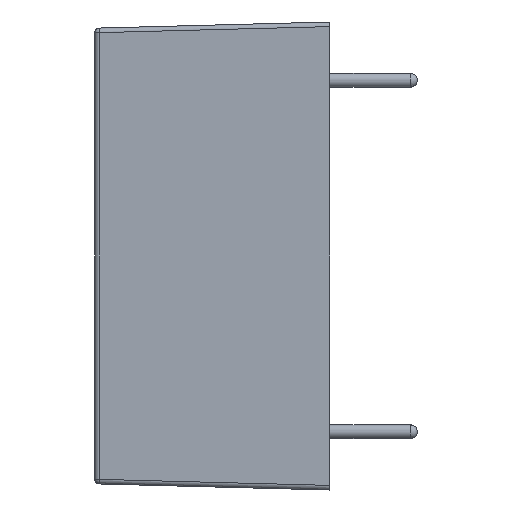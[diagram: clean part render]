
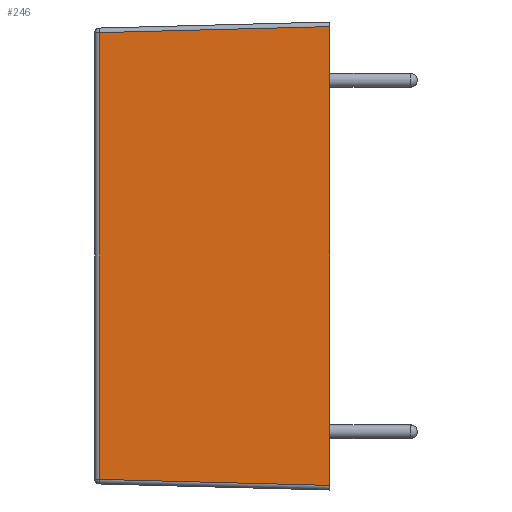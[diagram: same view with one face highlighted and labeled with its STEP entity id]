
A CAD part, left-side view. The second image highlights one B-rep face of the part: STEP entity #246.
In plain terms, the highlighted planar face has unit normal (-1, 0.026, 0).
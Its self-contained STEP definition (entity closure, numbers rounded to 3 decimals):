
#19 = DIRECTION ( 'NONE',  ( 0., 0., 1. ) ) ;
#54 = EDGE_CURVE ( 'NONE', #891, #755, #245, .T. ) ;
#109 = DIRECTION ( 'NONE',  ( 0., 0., -1. ) ) ;
#191 = CARTESIAN_POINT ( 'NONE',  ( -15.886, 0.526, 9.936 ) ) ;
#245 = LINE ( 'NONE', #1083, #606 ) ;
#246 = ADVANCED_FACE ( 'NONE', ( #919 ), #655, .T. ) ;
#267 = EDGE_LOOP ( 'NONE', ( #1176, #418, #1210, #1104 ) ) ;
#385 = EDGE_CURVE ( 'NONE', #738, #891, #577, .T. ) ;
#397 = AXIS2_PLACEMENT_3D ( 'NONE', #399, #874, #495 ) ;
#399 = CARTESIAN_POINT ( 'NONE',  ( -15.9, 0., -10.15 ) ) ;
#418 = ORIENTED_EDGE ( 'NONE', *, *, #54, .T. ) ;
#436 = VECTOR ( 'NONE', #19, 1000. ) ;
#495 = DIRECTION ( 'NONE',  ( -0.026, -1., 0. ) ) ;
#565 = CARTESIAN_POINT ( 'NONE',  ( -15.638, 10.005, -9.883 ) ) ;
#575 = EDGE_CURVE ( 'NONE', #755, #797, #691, .T. ) ;
#577 = LINE ( 'NONE', #565, #798 ) ;
#606 = VECTOR ( 'NONE', #817, 1000. ) ;
#631 = EDGE_CURVE ( 'NONE', #797, #738, #1149, .T. ) ;
#642 = CARTESIAN_POINT ( 'NONE',  ( -15.9, 0., 9.95 ) ) ;
#655 = PLANE ( 'NONE',  #397 ) ;
#691 = LINE ( 'NONE', #1213, #436 ) ;
#724 = CARTESIAN_POINT ( 'NONE',  ( -15.638, 10.005, -9.688 ) ) ;
#738 = VERTEX_POINT ( 'NONE', #858 ) ;
#755 = VERTEX_POINT ( 'NONE', #1119 ) ;
#797 = VERTEX_POINT ( 'NONE', #642 ) ;
#798 = VECTOR ( 'NONE', #109, 1000. ) ;
#817 = DIRECTION ( 'NONE',  ( -0.026, -0.999, -0.026 ) ) ;
#858 = CARTESIAN_POINT ( 'NONE',  ( -15.638, 10.005, 9.688 ) ) ;
#874 = DIRECTION ( 'NONE',  ( -1., 0.026, 0. ) ) ;
#891 = VERTEX_POINT ( 'NONE', #724 ) ;
#919 = FACE_OUTER_BOUND ( 'NONE', #267, .T. ) ;
#991 = DIRECTION ( 'NONE',  ( 0.026, 0.999, -0.026 ) ) ;
#1083 = CARTESIAN_POINT ( 'NONE',  ( -15.9, -0.005, -9.95 ) ) ;
#1104 = ORIENTED_EDGE ( 'NONE', *, *, #631, .T. ) ;
#1119 = CARTESIAN_POINT ( 'NONE',  ( -15.9, 0., -9.95 ) ) ;
#1121 = VECTOR ( 'NONE', #991, 1000. ) ;
#1149 = LINE ( 'NONE', #191, #1121 ) ;
#1176 = ORIENTED_EDGE ( 'NONE', *, *, #385, .T. ) ;
#1210 = ORIENTED_EDGE ( 'NONE', *, *, #575, .T. ) ;
#1213 = CARTESIAN_POINT ( 'NONE',  ( -15.9, 0., -10.15 ) ) ;
